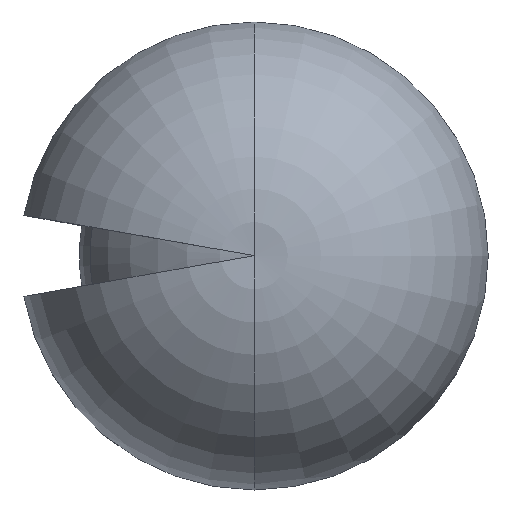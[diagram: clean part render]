
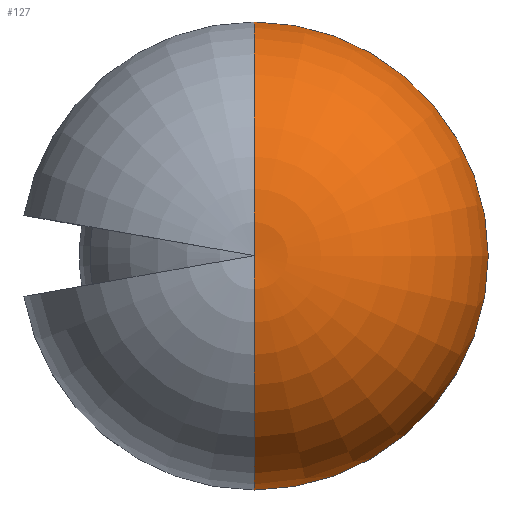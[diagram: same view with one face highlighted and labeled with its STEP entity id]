
A CAD part, top view. The second image highlights one B-rep face of the part: STEP entity #127.
In plain terms, the highlighted toroidal (fillet/blend) face has major radius 320 mm and minor radius 2644.27 mm.
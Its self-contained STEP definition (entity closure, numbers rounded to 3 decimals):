
#13 = AXIS2_PLACEMENT_3D ( 'NONE', #130, #248, #20 ) ;
#20 = DIRECTION ( 'NONE',  ( 0., 1., 0. ) ) ;
#53 = FACE_OUTER_BOUND ( 'NONE', #252, .T. ) ;
#76 = AXIS2_PLACEMENT_3D ( 'NONE', #303, #438, #188 ) ;
#98 = CIRCLE ( 'NONE', #244, 2954.208 ) ;
#102 = CIRCLE ( 'NONE', #76, 2644.27 ) ;
#114 = ORIENTED_EDGE ( 'NONE', *, *, #411, .F. ) ;
#127 = ADVANCED_FACE ( 'NONE', ( #53 ), #310, .T. ) ;
#130 = CARTESIAN_POINT ( 'NONE',  ( 0., -320., 780. ) ) ;
#147 = EDGE_CURVE ( 'NONE', #477, #364, #102, .T. ) ;
#153 = DIRECTION ( 'NONE',  ( 0., 1., 0. ) ) ;
#161 = CARTESIAN_POINT ( 'NONE',  ( 0., -2954.208, 1010.463 ) ) ;
#172 = CARTESIAN_POINT ( 'NONE',  ( 0., 0., 1010.463 ) ) ;
#188 = DIRECTION ( 'NONE',  ( 0., 0., 1. ) ) ;
#224 = DIRECTION ( 'NONE',  ( 0., 0., -1. ) ) ;
#244 = AXIS2_PLACEMENT_3D ( 'NONE', #172, #416, #414 ) ;
#248 = DIRECTION ( 'NONE',  ( 1., 0., 0. ) ) ;
#252 = EDGE_LOOP ( 'NONE', ( #447, #526, #114 ) ) ;
#258 = AXIS2_PLACEMENT_3D ( 'NONE', #295, #224, #153 ) ;
#295 = CARTESIAN_POINT ( 'NONE',  ( 0., 0., 780. ) ) ;
#303 = CARTESIAN_POINT ( 'NONE',  ( 0., 320., 780. ) ) ;
#310 = TOROIDAL_SURFACE ( 'NONE', #258, 320., 2644.27 ) ;
#335 = CARTESIAN_POINT ( 'NONE',  ( 0., 0., 3404.836 ) ) ;
#357 = CIRCLE ( 'NONE', #13, 2644.27 ) ;
#364 = VERTEX_POINT ( 'NONE', #449 ) ;
#370 = VERTEX_POINT ( 'NONE', #161 ) ;
#404 = EDGE_CURVE ( 'NONE', #477, #370, #357, .T. ) ;
#411 = EDGE_CURVE ( 'NONE', #364, #370, #98, .T. ) ;
#414 = DIRECTION ( 'NONE',  ( 0., 1., 0. ) ) ;
#416 = DIRECTION ( 'NONE',  ( 0., 0., -1. ) ) ;
#438 = DIRECTION ( 'NONE',  ( -1., 0., 0. ) ) ;
#447 = ORIENTED_EDGE ( 'NONE', *, *, #147, .F. ) ;
#449 = CARTESIAN_POINT ( 'NONE',  ( 0., 2954.208, 1010.463 ) ) ;
#477 = VERTEX_POINT ( 'NONE', #335 ) ;
#526 = ORIENTED_EDGE ( 'NONE', *, *, #404, .T. ) ;
